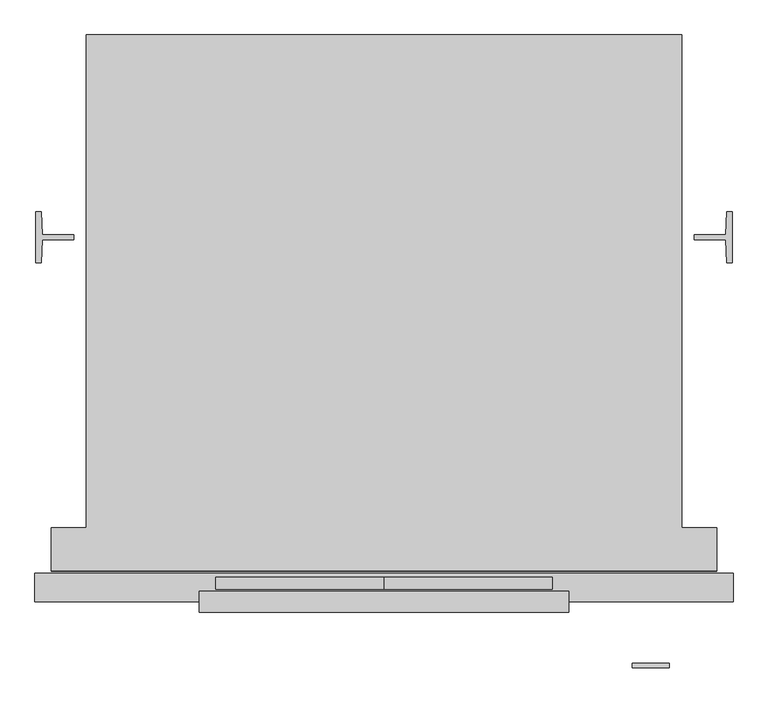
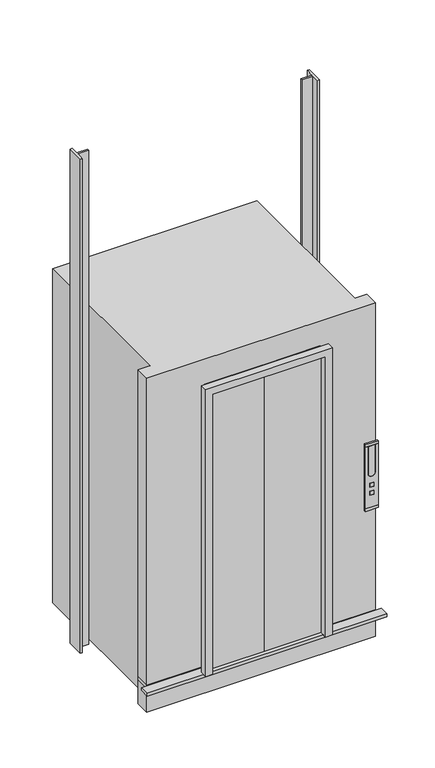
"""IFC4 building model written with IfcOpenShell, lengths in millimetres: proxy geometry, エレベーター : 9人乗."""

import ifcopenshell
import ifcopenshell.guid

model = None  # the IFC model being written
_history = None  # IfcOwnerHistory: only IFC2X3 demands one
_inside = {}  # id of a spatial element -> (the spatial element, [elements in it])
_under = {}  # id of a project, library or spatial element -> (it, [spatial elements below it])
_declared = {}  # id of a project -> (the project, [libraries it declares])
_typed = {}  # id of a type object -> (the type object, [elements of that type])
_made_of = {}  # id of a material, layer set ... -> (it, [elements and type objects made of it])


def new_model(schema):
    """Start an empty IFC model of exactly this schema.

    Asked for "IFC4X3", IfcOpenShell would pick the latest addendum, in which some entities
    have other attributes; the version numbers below select the first issue.
    IFC2X3 requires an IfcOwnerHistory on every rooted entity: one is made here for all.
    """
    global model, _history
    if schema == "IFC4X3":
        model = ifcopenshell.file(schema_version=(4, 3, 0, 0))
    else:
        model = ifcopenshell.file(schema=schema)
    _inside.clear()
    _under.clear()
    _declared.clear()
    _typed.clear()
    _made_of.clear()
    _history = None
    if model.schema == "IFC2X3":
        org = make("IfcOrganization", Name="unknown")
        user = make(
            "IfcPersonAndOrganization",
            ThePerson=make("IfcPerson", FamilyName="unknown"),
            TheOrganization=org,
        )
        app = make(
            "IfcApplication",
            ApplicationDeveloper=org,
            Version="unknown",
            ApplicationFullName="unknown",
            ApplicationIdentifier="unknown",
        )
        _history = make(
            "IfcOwnerHistory",
            OwningUser=user,
            OwningApplication=app,
            ChangeAction="ADDED",
            CreationDate=0,
        )
    return model


def make(cls, **values):
    """One entity of the class cls with the attributes given. An attribute that is None is left unset."""
    return model.create_entity(
        cls, **{name: value for name, value in values.items() if value is not None}
    )


def rooted(cls, **values):
    """An entity with a GlobalId (a new one), such as an element, a storey or a relation."""
    return make(cls, GlobalId=ifcopenshell.guid.new(), OwnerHistory=_history, **values)


def si_unit(unit_type, name, prefix=None):
    """IfcSIUnit, for example si_unit("LENGTHUNIT", "METRE", prefix="MILLI")."""
    return make("IfcSIUnit", UnitType=unit_type, Prefix=prefix, Name=name)


def assignment(units):
    """IfcUnitAssignment: the units of a project."""
    return None if units is None else make("IfcUnitAssignment", Units=units)


def point(xyz):
    """IfcCartesianPoint."""
    return None if xyz is None else make("IfcCartesianPoint", Coordinates=xyz)


def direction(xyz):
    """IfcDirection."""
    return None if xyz is None else make("IfcDirection", DirectionRatios=xyz)


def frame(location, z_axis=None, x_axis=None):
    """IfcAxis2Placement3D, a coordinate frame: its origin and axes. An axis left out is left unset."""
    return make(
        "IfcAxis2Placement3D",
        Location=point(location),
        Axis=direction(z_axis),
        RefDirection=direction(x_axis),
    )


def frame_2d(location, x_axis=None):
    """IfcAxis2Placement2D, a coordinate frame in the plane: its origin and x axis."""
    return make(
        "IfcAxis2Placement2D", Location=point(location), RefDirection=direction(x_axis)
    )


def origin():
    """The frame at (0, 0, 0) with its axes left unset."""
    return frame((0.0, 0.0, 0.0))


def origin_with_axes():
    """The frame at (0, 0, 0) with the z axis (0, 0, 1) and the x axis (1, 0, 0) written out."""
    return frame((0.0, 0.0, 0.0), z_axis=(0.0, 0.0, 1.0), x_axis=(1.0, 0.0, 0.0))


def place(relative_to, where):
    """IfcLocalPlacement: puts the frame where relative to a parent placement (None: the world)."""
    return make(
        "IfcLocalPlacement", PlacementRelTo=relative_to, RelativePlacement=where
    )


def context(
    kind, dimensions, precision=None, world=None, true_north=None, identifier=None
):
    """IfcGeometricRepresentationContext, for example the 3D "Model" context."""
    return make(
        "IfcGeometricRepresentationContext",
        ContextIdentifier=identifier,
        ContextType=kind,
        CoordinateSpaceDimension=dimensions,
        Precision=precision,
        WorldCoordinateSystem=world,
        TrueNorth=true_north,
    )


def project(units=None, contexts=None):
    """IfcProject with its units and contexts."""
    return rooted(
        "IfcProject",
        Name="project",
        RepresentationContexts=contexts,
        UnitsInContext=assignment(units),
    )


def spatial(cls, under=None, at=None, **own):
    """A site, building, storey or space (cls), placed at a placement, below another one or the project."""
    s = rooted(cls, ObjectPlacement=at, **own)
    if under is not None:
        _under.setdefault(under.id(), (under, []))[1].append(s)
    return s


def polyline(points):
    """IfcPolyline through the points."""
    return make("IfcPolyline", Points=[point(p) for p in points])


def circle_curve(where, radius):
    """IfcCircle in the frame where."""
    return make("IfcCircle", Position=where, Radius=radius)


def trimmed(basis, trim1, trim2, sense, master):
    """IfcTrimmedCurve: the piece of a basis curve between two trims."""
    return make(
        "IfcTrimmedCurve",
        BasisCurve=basis,
        Trim1=trim1,
        Trim2=trim2,
        SenseAgreement=sense,
        MasterRepresentation=master,
    )


def segment(curve, same_sense, transition):
    """IfcCompositeCurveSegment."""
    return make(
        "IfcCompositeCurveSegment",
        Transition=transition,
        SameSense=same_sense,
        ParentCurve=curve,
    )


def composite_curve(segments, self_intersect=None):
    """IfcCompositeCurve: segments joined end to end."""
    return make("IfcCompositeCurve", Segments=segments, SelfIntersect=self_intersect)


def outline(outer, holes=None, kind="AREA"):
    """IfcArbitraryClosedProfileDef: a profile drawn as a closed curve; with holes, ...WithVoids."""
    if holes is None:
        return make("IfcArbitraryClosedProfileDef", ProfileType=kind, OuterCurve=outer)
    return make(
        "IfcArbitraryProfileDefWithVoids",
        ProfileType=kind,
        OuterCurve=outer,
        InnerCurves=holes,
    )


def extrude(swept, where, along, depth):
    """IfcExtrudedAreaSolid: the profile swept, set in the frame where, extruded along a direction by depth."""
    return make(
        "IfcExtrudedAreaSolid",
        SweptArea=swept,
        Position=where,
        ExtrudedDirection=direction(along),
        Depth=depth,
    )


def faces_of(points, faces, orient=None, outer=None):
    """IfcFace entities. A face is a list of loops; a loop is a list of indices into points, from 0.

    orient and outer hold one flag for each loop. By default every Orientation is true, the
    first loop of a face is its IfcFaceOuterBound and the others are IfcFaceBound.
    """
    made = []
    for i, loops in enumerate(faces):
        bounds = []
        for j, loop in enumerate(loops):
            is_outer = j == 0 if outer is None else outer[i][j]
            bounds.append(
                make(
                    "IfcFaceOuterBound" if is_outer else "IfcFaceBound",
                    Bound=make("IfcPolyLoop", Polygon=[points[k] for k in loop]),
                    Orientation=True if orient is None else orient[i][j],
                )
            )
        made.append(make("IfcFace", Bounds=bounds))
    return made


def faceted_brep(points, faces, orient=None, outer=None, voids=None):
    """IfcFacetedBrep: a solid bounded by flat faces; with voids (closed shells), ...WithVoids."""
    shared = [point(p) for p in points]
    hull = make("IfcClosedShell", CfsFaces=faces_of(shared, faces, orient, outer))
    if voids is None:
        return make("IfcFacetedBrep", Outer=hull)
    return make(
        "IfcFacetedBrepWithVoids",
        Outer=hull,
        Voids=[
            make(cls, CfsFaces=faces_of(shared, fs, o, b)) for cls, fs, o, b in voids
        ],
    )


def shape(context_of_items, identifier, shape_type, items):
    """IfcShapeRepresentation: the items that make up one representation, for example the "Body"."""
    return make(
        "IfcShapeRepresentation",
        ContextOfItems=context_of_items,
        RepresentationIdentifier=identifier,
        RepresentationType=shape_type,
        Items=items,
    )


def source(mapping_origin, context_of_items, identifier, shape_type, items):
    """IfcRepresentationMap: a shape defined once, which mapped items show again and again."""
    return make(
        "IfcRepresentationMap",
        MappingOrigin=mapping_origin,
        MappedRepresentation=shape(context_of_items, identifier, shape_type, items),
    )


def transform(
    local_origin,
    x_axis=None,
    y_axis=None,
    z_axis=None,
    scale=None,
    scale2=None,
    scale3=None,
    uniform=True,
):
    """IfcCartesianTransformationOperator3D, or its non-uniform kind. x_axis, y_axis, z_axis: its Axis1, 2, 3."""
    if uniform:
        return make(
            "IfcCartesianTransformationOperator3D",
            Axis1=direction(x_axis),
            Axis2=direction(y_axis),
            LocalOrigin=point(local_origin),
            Scale=scale,
            Axis3=direction(z_axis),
        )
    return make(
        "IfcCartesianTransformationOperator3DnonUniform",
        Axis1=direction(x_axis),
        Axis2=direction(y_axis),
        LocalOrigin=point(local_origin),
        Scale=scale,
        Axis3=direction(z_axis),
        Scale2=scale2,
        Scale3=scale3,
    )


def mapped(mapping_source, mapping_target):
    """IfcMappedItem: shows the shape of a source again, moved by a transform."""
    return make(
        "IfcMappedItem", MappingSource=mapping_source, MappingTarget=mapping_target
    )


def made_of(thing, what):
    """Note that an element or type object is made of a material, layer set ...; save() writes the relation."""
    if what is not None:
        _made_of.setdefault(what.id(), (what, []))[1].append(thing)
    return thing


def element(
    cls,
    number,
    at=None,
    inside=None,
    cuts=None,
    type_object=None,
    material=None,
    context=None,
    identifier="Body",
    shape_type=None,
    held_by="IfcProductDefinitionShape",
    body=None,
    shapes=None,
    **own,
):
    """One element of the class cls, such as IfcWall. Its Tag is "e" and its number.

    at: its placement. inside: the storey or other place that contains it. cuts: it is an
    opening in that element (IfcRelVoidsElement). A single representation is given by context,
    identifier, shape_type and body (its items); several are given by shapes. held_by: the class
    of the entity that holds the representations. save() writes the other relations.
    """
    e = rooted(cls, Tag="e%d" % number, ObjectPlacement=at, **own)
    if body is not None:
        shapes = [shape(context, identifier, shape_type, body)]
    if shapes is not None:
        e.Representation = make(held_by, Representations=shapes)
    if inside is not None:
        _inside.setdefault(inside.id(), (inside, []))[1].append(e)
    if cuts is not None:
        rooted(
            "IfcRelVoidsElement", RelatingBuildingElement=cuts, RelatedOpeningElement=e
        )
    if type_object is not None:
        _typed.setdefault(type_object.id(), (type_object, []))[1].append(e)
    return made_of(e, material)


def aggregate(whole, parts):
    """IfcRelAggregates: a whole, such as a stair, and the parts it consists of."""
    return rooted("IfcRelAggregates", RelatingObject=whole, RelatedObjects=parts)


def save(model, path):
    """Write the relations noted so far, then the file.

    IfcRelAggregates (storeys below a building ...), IfcRelContainedInSpatialStructure (elements
    in a storey), IfcRelDefinesByType, IfcRelAssociatesMaterial and IfcRelDeclares: one each for
    every whole, place, type object, material and project.
    """
    for whole, parts in _under.values():
        aggregate(whole, parts)
    for where, things in _inside.values():
        rooted(
            "IfcRelContainedInSpatialStructure",
            RelatedElements=things,
            RelatingStructure=where,
        )
    for kind, things in _typed.values():
        rooted("IfcRelDefinesByType", RelatedObjects=things, RelatingType=kind)
    for what, things in _made_of.values():
        rooted("IfcRelAssociatesMaterial", RelatedObjects=things, RelatingMaterial=what)
    for by, libraries in _declared.values():
        rooted("IfcRelDeclares", RelatingContext=by, RelatedDefinitions=libraries)
    model.write(path)


def specialty_equipment_d755c605(model_context):
    return source(origin(), model_context, "Body", "SolidModel", [
        extrude(outline(composite_curve([segment(polyline([(1430.0, 750.0), (1225.0, 750.0)]), True, "CONTINUOUS"), segment(trimmed(circle_curve(frame_2d((1225.0, 775.0)), 25.0), [point((1225.0, 750.0))], [point((1225.0, 800.0))], False, "CARTESIAN"), True, "CONTINUOUS"), segment(polyline([(1225.0, 800.0), (1430.0, 800.0), (1430.0, 750.0)]), True, "CONTINUOUS")], self_intersect=False)), frame((0.0, -85.0, 0.0), z_axis=(0.0, 1.0, 0.0), x_axis=(0.0, 0.0, 1.0)), (0.0, 0.0, 1.0), 10.0),
        extrude(outline(polyline([(790.0, -85.0), (760.0, -85.0), (760.0, -75.0), (790.0, -75.0), (790.0, -85.0)])), frame((0.0, 0.0, 1120.0), z_axis=(0.0, 0.0, 1.0), x_axis=(1.0, 0.0, 0.0)), (0.0, 0.0, 1.0), 30.0),
        extrude(outline(polyline([(790.0, -85.0), (760.0, -85.0), (760.0, -75.0), (790.0, -75.0), (790.0, -85.0)])), frame((0.0, 0.0, 1060.0), z_axis=(0.0, 0.0, 1.0), x_axis=(1.0, 0.0, 0.0)), (0.0, 0.0, 1.0), 30.0),
        extrude(outline(composite_curve([segment(polyline([(970.0, 730.0), (970.0, 820.0), (1430.0, 820.0), (1430.0, 800.0), (1225.0, 800.0)]), True, "CONTINUOUS"), segment(trimmed(circle_curve(frame_2d((1225.0, 775.0)), 25.0), [point((1225.0, 800.0))], [point((1225.0, 750.0))], True, "CARTESIAN"), True, "CONTINUOUS"), segment(polyline([(1225.0, 750.0), (1430.0, 750.0), (1430.0, 730.0), (970.0, 730.0)]), True, "CONTINUOUS")], self_intersect=False), holes=[polyline([(1150.0, 760.0), (1150.0, 790.0), (1120.0, 790.0), (1120.0, 760.0), (1150.0, 760.0)]), polyline([(1090.0, 760.0), (1090.0, 790.0), (1060.0, 790.0), (1060.0, 760.0), (1090.0, 760.0)])]), frame((0.0, -85.0, 0.0), z_axis=(0.0, 1.0, 0.0), x_axis=(0.0, 0.0, 1.0)), (0.0, 0.0, 1.0), 10.0),
        extrude(outline(polyline([(820.0, -85.0), (730.0, -85.0), (730.0, -75.0), (820.0, -75.0), (820.0, -85.0)])), frame((0.0, 0.0, 1430.0), z_axis=(0.0, 0.0, 1.0), x_axis=(1.0, 0.0, 0.0)), (0.0, 0.0, 1.0), 20.0),
        extrude(outline(polyline([(820.0, -85.0), (730.0, -85.0), (730.0, -75.0), (820.0, -75.0), (820.0, -85.0)])), frame((0.0, 0.0, 950.0), z_axis=(0.0, 0.0, 1.0), x_axis=(1.0, 0.0, 0.0)), (0.0, 0.0, 1.0), 20.0),
        extrude(outline(polyline([(-630.0, 969.0), (-630.0, 956.0), (-707.5, 956.0), (-710.0, 900.0), (-722.5, 900.0), (-722.5, 1025.0), (-710.0, 1025.0), (-707.5, 969.0), (-630.0, 969.0)])), frame((0.0, 0.0, -200.0), z_axis=(0.0, 0.0, 1.0), x_axis=(1.0, 0.0, 0.0)), (0.0, 0.0, 1.0), 3700.0),
        extrude(outline(polyline([(880.0, 969.0), (957.5, 969.0), (960.0, 1025.0), (972.5, 1025.0), (972.5, 900.0), (960.0, 900.0), (957.5, 956.0), (880.0, 956.0), (880.0, 969.0)])), frame((0.0, 0.0, -200.0), z_axis=(0.0, 0.0, 1.0), x_axis=(1.0, 0.0, 0.0)), (0.0, 0.0, 1.0), 3700.0),
        extrude(outline(polyline([(-521.291353, 444.9359647), (-519.1769257, 449.4668804), (-337.9402977, 364.8897874), (-340.054725, 360.3588717), (-521.291353, 444.9359647)])), origin_with_axes(), (0.0, 0.0, 1.0), 2260.0),
        extrude(outline(polyline([(-298.6470648, 330.0), (-585.0, 463.6313698), (-585.0, 470.0), (-575.0, 470.0), (-275.0, 330.0), (-298.6470648, 330.0)])), origin_with_axes(), (0.0, 0.0, 1.0), 2260.0),
        extrude(outline(polyline([(525.0, 330.0), (825.0, 470.0), (835.0, 470.0), (835.0, 463.6313698), (548.6470648, 330.0), (525.0, 330.0)])), origin_with_axes(), (0.0, 0.0, 1.0), 2260.0),
        extrude(outline(polyline([(-298.6470648, 330.0), (548.6470648, 330.0), (535.0, 323.6313698), (535.0, 320.0), (-285.0, 320.0), (-285.0, 323.6313698), (-298.6470648, 330.0)])), frame((0.0, 0.0, 2100.0), z_axis=(0.0, 0.0, 1.0), x_axis=(1.0, 0.0, 0.0)), (0.0, 0.0, 1.0), 160.0),
        extrude(outline(polyline([(-585.0, 463.6313698), (-585.0, 1440.0), (835.0, 1440.0), (835.0, 463.6313698), (535.0, 323.6313698), (535.0, 255.0), (-285.0, 255.0), (-285.0, 323.6313698), (-585.0, 463.6313698)])), frame((0.0, 0.0, 2260.0), z_axis=(0.0, 0.0, 1.0), x_axis=(1.0, 0.0, 0.0)), (0.0, 0.0, 1.0), 10.0),
        extrude(outline(polyline([(-685.0, 255.0), (935.0, 255.0), (935.0, 150.0), (-685.0, 150.0), (-685.0, 255.0)])), frame((0.0, 0.0, -20.0), z_axis=(0.0, 0.0, 1.0), x_axis=(1.0, 0.0, 0.0)), (0.0, 0.0, 1.0), 20.0),
        extrude(outline(polyline([(975.0, 145.0), (975.0, 75.0), (-725.0, 75.0), (-725.0, 145.0), (975.0, 145.0)])), frame((0.0, 0.0, -20.0), z_axis=(0.0, 0.0, 1.0), x_axis=(1.0, 0.0, 0.0)), (0.0, 0.0, 1.0), 20.0),
        extrude(outline(polyline([(-575.0, 1430.0), (-575.0, 470.0), (-585.0, 470.0), (-585.0, 1440.0), (835.0, 1440.0), (835.0, 470.0), (825.0, 470.0), (825.0, 1430.0), (-575.0, 1430.0)])), frame((0.0, 0.0, 80.0), z_axis=(0.0, 0.0, 1.0), x_axis=(1.0, 0.0, 0.0)), (0.0, 0.0, 1.0), 2180.0),
        extrude(outline(polyline([(-575.0, 1430.0), (825.0, 1430.0), (825.0, 470.0), (525.0, 330.0), (525.0, 255.0), (-275.0, 255.0), (-275.0, 330.0), (-575.0, 470.0), (-575.0, 1430.0)])), frame((0.0, 0.0, -200.0), z_axis=(0.0, 0.0, 1.0), x_axis=(1.0, 0.0, 0.0)), (0.0, 0.0, 1.0), 200.0),
        extrude(outline(polyline([(-575.0, 470.0), (-585.0, 470.0), (-585.0, 1440.0), (835.0, 1440.0), (835.0, 470.0), (825.0, 470.0), (825.0, 1430.0), (-575.0, 1430.0), (-575.0, 470.0)])), origin_with_axes(), (0.0, 0.0, 1.0), 80.0),
        extrude(outline(polyline([(0.0, 525.0), (0.0, 575.0), (2150.0, 575.0), (2150.0, -325.0), (0.0, -325.0), (0.0, -275.0), (2100.0, -275.0), (2100.0, 525.0), (0.0, 525.0)])), frame((0.0, 50.0, 0.0), z_axis=(0.0, 1.0, 0.0), x_axis=(0.0, 0.0, 1.0)), (0.0, 0.0, 1.0), 50.0),
        extrude(outline(polyline([(125.5, 135.0), (535.0, 135.0), (535.0, 105.0), (125.5, 105.0), (125.5, 135.0)])), origin_with_axes(), (0.0, 0.0, 1.0), 2125.0),
        extrude(outline(polyline([(-285.0, 135.0), (124.5, 135.0), (124.5, 105.0), (-285.0, 105.0), (-285.0, 135.0)])), origin_with_axes(), (0.0, 0.0, 1.0), 2125.0),
        extrude(outline(polyline([(124.5, 250.0), (124.5, 220.0), (-285.0, 220.0), (-285.0, 250.0), (124.5, 250.0)])), origin_with_axes(), (0.0, 0.0, 1.0), 2125.0),
        extrude(outline(polyline([(125.5, 220.0), (125.5, 250.0), (535.0, 250.0), (535.0, 220.0), (125.5, 220.0)])), origin_with_axes(), (0.0, 0.0, 1.0), 2125.0),
        faceted_brep([(850.0, 255.0, 2300.0), (850.0, 1455.0, 2300.0), (-600.0, 1455.0, 2300.0), (-600.0, 255.0, 2300.0), (-685.0, 255.0, 2300.0), (-685.0, 150.0, 2300.0), (935.0, 150.0, 2300.0), (935.0, 255.0, 2300.0), (850.0, 255.0, -200.0), (935.0, 255.0, -200.0), (935.0, 150.0, -200.0), (-685.0, 150.0, -200.0), (-685.0, 255.0, -200.0), (-600.0, 255.0, -200.0), (-600.0, 1455.0, -200.0), (850.0, 1455.0, -200.0), (535.0, 150.0, -20.0), (-285.0, 150.0, -20.0), (-285.0, 150.0, 2100.0), (535.0, 150.0, 2100.0), (-285.0, 323.6313698, 2270.0), (-585.0, 463.6313698, 2270.0), (-585.0, 1440.0, 2270.0), (835.0, 1440.0, 2270.0), (835.0, 463.6313698, 2270.0), (535.0, 323.6313698, 2270.0), (535.0, 320.0, 2270.0), (-285.0, 320.0, 2270.0), (535.0, 323.6313698, -20.0), (835.0, 463.6313698, -20.0), (835.0, 1440.0, -20.0), (-585.0, 1440.0, -20.0), (-585.0, 463.6313698, -20.0), (-285.0, 323.6313698, -20.0), (535.0, 320.0, 2100.0), (-285.0, 320.0, 2100.0)], [[[0, 1, 2, 3, 4, 5, 6, 7]], [[8, 9, 10, 11, 12, 13, 14, 15]], [[1, 0, 8, 15]], [[2, 1, 15, 14]], [[3, 2, 14, 13]], [[4, 3, 13, 12]], [[5, 4, 12, 11]], [[6, 5, 11, 10], [16, 17, 18, 19]], [[7, 6, 10, 9]], [[0, 7, 9, 8]], [[20, 21, 22, 23, 24, 25, 26, 27]], [[16, 28, 29, 30, 31, 32, 33, 17]], [[28, 16, 19, 34, 26, 25]], [[25, 24, 29, 28]], [[24, 23, 30, 29]], [[23, 22, 31, 30]], [[22, 21, 32, 31]], [[21, 20, 33, 32]], [[17, 33, 20, 27, 35, 18]], [[35, 34, 19, 18]], [[34, 35, 27, 26]]]),
    ])


if __name__ == "__main__":
    model = new_model("IFC4")
    model_context = context("Model", 3, world=origin())
    ifc_project = project(units=[si_unit("LENGTHUNIT", "METRE", prefix="MILLI")], contexts=[model_context])
    site = spatial("IfcSite", under=ifc_project)
    building = spatial("IfcBuilding", under=site)
    placement = place(None, origin())
    specialty_equipment_shape = specialty_equipment_d755c605(model_context)
    element("IfcBuildingElementProxy", 1, Name="エレベーター : 9人乗", ObjectType="エレベーター : 9人乗", at=placement, inside=building, context=model_context, shape_type="MappedRepresentation", body=[
        mapped(specialty_equipment_shape, transform((0.0, 0.0, 0.0), x_axis=(1.0, 0.0, 0.0), y_axis=(0.0, 1.0, 0.0), z_axis=(0.0, 0.0, 1.0))),
    ])
    save(model, "model.ifc")
